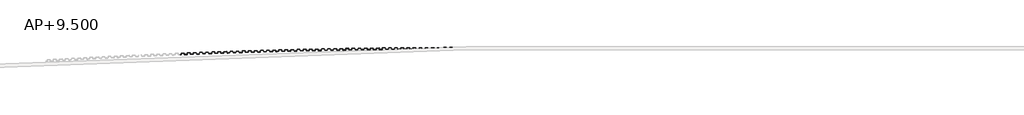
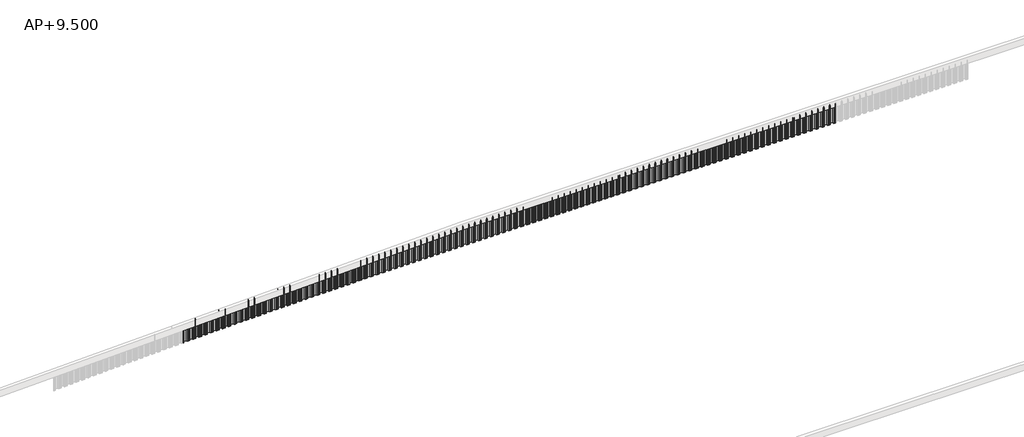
# One storey, part 2 of 3: 109 proxies.
"""IFC4 building model written with IfcOpenShell, lengths in millimetres."""

from ifc_helpers import new_model, si_unit, origin, place, context, project, spatial, transform, mapped, element, save
from components import generic_models_baafeade

model = new_model("IFC4")

# Units and contexts
model_context = context("Model", 3, world=origin())
ifc_project = project(units=[si_unit("LENGTHUNIT", "METRE", prefix="MILLI")], contexts=[model_context])

# Site, building, storey
site = spatial("IfcSite", under=ifc_project)
building = spatial("IfcBuilding", under=site)
storey = spatial("IfcBuildingStorey", under=building, Name="AP+9.500", Elevation=9500.0)

# Proxies
placement = place(None, origin())
generic_models_shape = generic_models_baafeade(model_context)
element("IfcBuildingElementProxy", 1, Name="鋼矢板10H型 : 鋼矢板10H型", ObjectType="鋼矢板10H型 : 鋼矢板10H型", at=placement, inside=storey, context=model_context, shape_type="MappedRepresentation", body=[
    mapped(generic_models_shape, transform((39732.0, 49750.0, 8850.0), x_axis=(1.0, 0.0, 0.0), y_axis=(0.0, 1.0, 0.0), z_axis=(0.0, 0.0, 1.0))),
])
element("IfcBuildingElementProxy", 2, Name="鋼矢板10H型 : 鋼矢板10H型", ObjectType="鋼矢板10H型 : 鋼矢板10H型", at=placement, inside=storey, context=model_context, shape_type="MappedRepresentation", body=[
    mapped(generic_models_shape, transform((38832.0, 49750.0, 8850.0), x_axis=(1.0, 0.0, 0.0), y_axis=(0.0, 1.0, 0.0), z_axis=(0.0, 0.0, 1.0))),
])
element("IfcBuildingElementProxy", 3, Name="鋼矢板10H型 : 鋼矢板10H型", ObjectType="鋼矢板10H型 : 鋼矢板10H型", at=placement, inside=storey, context=model_context, shape_type="MappedRepresentation", body=[
    mapped(generic_models_shape, transform((37932.0, 49750.0, 8850.0), x_axis=(1.0, 0.0, 0.0), y_axis=(0.0, 1.0, 0.0), z_axis=(0.0, 0.0, 1.0))),
])
element("IfcBuildingElementProxy", 4, Name="鋼矢板10H型 : 鋼矢板10H型", ObjectType="鋼矢板10H型 : 鋼矢板10H型", at=placement, inside=storey, context=model_context, shape_type="MappedRepresentation", body=[
    mapped(generic_models_shape, transform((37032.0, 49750.0, 8850.0), x_axis=(1.0, 0.0, 0.0), y_axis=(0.0, 1.0, 0.0), z_axis=(0.0, 0.0, 1.0))),
])
element("IfcBuildingElementProxy", 5, Name="鋼矢板10H型 : 鋼矢板10H型", ObjectType="鋼矢板10H型 : 鋼矢板10H型", at=placement, inside=storey, context=model_context, shape_type="MappedRepresentation", body=[
    mapped(generic_models_shape, transform((36132.0, 49750.0, 8850.0), x_axis=(1.0, 0.0, 0.0), y_axis=(0.0, 1.0, 0.0), z_axis=(0.0, 0.0, 1.0))),
])
element("IfcBuildingElementProxy", 6, Name="鋼矢板10H型 : 鋼矢板10H型", ObjectType="鋼矢板10H型 : 鋼矢板10H型", at=placement, inside=storey, context=model_context, shape_type="MappedRepresentation", body=[
    mapped(generic_models_shape, transform((35232.0, 49750.0, 8850.0), x_axis=(1.0, 0.0, 0.0), y_axis=(0.0, 1.0, 0.0), z_axis=(0.0, 0.0, 1.0))),
])
element("IfcBuildingElementProxy", 7, Name="鋼矢板10H型 : 鋼矢板10H型", ObjectType="鋼矢板10H型 : 鋼矢板10H型", at=placement, inside=storey, context=model_context, shape_type="MappedRepresentation", body=[
    mapped(generic_models_shape, transform((34332.0, 49750.0, 8850.0), x_axis=(1.0, 0.0, 0.0), y_axis=(0.0, 1.0, 0.0), z_axis=(0.0, 0.0, 1.0))),
])
element("IfcBuildingElementProxy", 8, Name="鋼矢板10H型 : 鋼矢板10H型", ObjectType="鋼矢板10H型 : 鋼矢板10H型", at=placement, inside=storey, context=model_context, shape_type="MappedRepresentation", body=[
    mapped(generic_models_shape, transform((33432.0, 49750.0, 8850.0), x_axis=(1.0, 0.0, 0.0), y_axis=(0.0, 1.0, 0.0), z_axis=(0.0, 0.0, 1.0))),
])
element("IfcBuildingElementProxy", 9, Name="鋼矢板10H型 : 鋼矢板10H型", ObjectType="鋼矢板10H型 : 鋼矢板10H型", at=placement, inside=storey, context=model_context, shape_type="MappedRepresentation", body=[
    mapped(generic_models_shape, transform((32532.0, 49750.0, 8850.0), x_axis=(1.0, 0.0, 0.0), y_axis=(0.0, 1.0, 0.0), z_axis=(0.0, 0.0, 1.0))),
])
element("IfcBuildingElementProxy", 10, Name="鋼矢板10H型 : 鋼矢板10H型", ObjectType="鋼矢板10H型 : 鋼矢板10H型", at=placement, inside=storey, context=model_context, shape_type="MappedRepresentation", body=[
    mapped(generic_models_shape, transform((31632.0, 49750.0, 8850.0), x_axis=(1.0, 0.0, 0.0), y_axis=(0.0, 1.0, 0.0), z_axis=(0.0, 0.0, 1.0))),
])
element("IfcBuildingElementProxy", 11, Name="鋼矢板10H型 : 鋼矢板10H型", ObjectType="鋼矢板10H型 : 鋼矢板10H型", at=placement, inside=storey, context=model_context, shape_type="MappedRepresentation", body=[
    mapped(generic_models_shape, transform((30732.0, 49750.0, 8850.0), x_axis=(1.0, 0.0, 0.0), y_axis=(0.0, 1.0, 0.0), z_axis=(0.0, 0.0, 1.0))),
])
element("IfcBuildingElementProxy", 12, Name="鋼矢板10H型 : 鋼矢板10H型", ObjectType="鋼矢板10H型 : 鋼矢板10H型", at=placement, inside=storey, context=model_context, shape_type="MappedRepresentation", body=[
    mapped(generic_models_shape, transform((29832.0, 49750.0, 8850.0), x_axis=(1.0, 0.0, 0.0), y_axis=(0.0, 1.0, 0.0), z_axis=(0.0, 0.0, 1.0))),
])
element("IfcBuildingElementProxy", 13, Name="鋼矢板10H型 : 鋼矢板10H型", ObjectType="鋼矢板10H型 : 鋼矢板10H型", at=placement, inside=storey, context=model_context, shape_type="MappedRepresentation", body=[
    mapped(generic_models_shape, transform((28932.0, 49750.0, 8850.0), x_axis=(1.0, 0.0, 0.0), y_axis=(0.0, 1.0, 0.0), z_axis=(0.0, 0.0, 1.0))),
])
element("IfcBuildingElementProxy", 14, Name="鋼矢板10H型 : 鋼矢板10H型", ObjectType="鋼矢板10H型 : 鋼矢板10H型", at=placement, inside=storey, context=model_context, shape_type="MappedRepresentation", body=[
    mapped(generic_models_shape, transform((28032.0, 49750.0, 8850.0), x_axis=(1.0, 0.0, 0.0), y_axis=(0.0, 1.0, 0.0), z_axis=(0.0, 0.0, 1.0))),
])
element("IfcBuildingElementProxy", 15, Name="鋼矢板10H型 : 鋼矢板10H型", ObjectType="鋼矢板10H型 : 鋼矢板10H型", at=placement, inside=storey, context=model_context, shape_type="MappedRepresentation", body=[
    mapped(generic_models_shape, transform((27132.0, 49750.0, 8850.0), x_axis=(1.0, 0.0, 0.0), y_axis=(0.0, 1.0, 0.0), z_axis=(0.0, 0.0, 1.0))),
])
element("IfcBuildingElementProxy", 16, Name="鋼矢板10H型 : 鋼矢板10H型", ObjectType="鋼矢板10H型 : 鋼矢板10H型", at=placement, inside=storey, context=model_context, shape_type="MappedRepresentation", body=[
    mapped(generic_models_shape, transform((26232.0, 49750.0, 8850.0), x_axis=(1.0, 0.0, 0.0), y_axis=(0.0, 1.0, 0.0), z_axis=(0.0, 0.0, 1.0))),
])
element("IfcBuildingElementProxy", 17, Name="鋼矢板10H型 : 鋼矢板10H型", ObjectType="鋼矢板10H型 : 鋼矢板10H型", at=placement, inside=storey, context=model_context, shape_type="MappedRepresentation", body=[
    mapped(generic_models_shape, transform((25332.0, 49750.0, 8850.0), x_axis=(1.0, 0.0, 0.0), y_axis=(0.0, 1.0, 0.0), z_axis=(0.0, 0.0, 1.0))),
])
element("IfcBuildingElementProxy", 18, Name="鋼矢板10H型 : 鋼矢板10H型", ObjectType="鋼矢板10H型 : 鋼矢板10H型", at=placement, inside=storey, context=model_context, shape_type="MappedRepresentation", body=[
    mapped(generic_models_shape, transform((24432.0, 49750.0, 8850.0), x_axis=(1.0, 0.0, 0.0), y_axis=(0.0, 1.0, 0.0), z_axis=(0.0, 0.0, 1.0))),
])
element("IfcBuildingElementProxy", 19, Name="鋼矢板10H型 : 鋼矢板10H型", ObjectType="鋼矢板10H型 : 鋼矢板10H型", at=placement, inside=storey, context=model_context, shape_type="MappedRepresentation", body=[
    mapped(generic_models_shape, transform((23532.0, 49750.0, 8850.0), x_axis=(1.0, 0.0, 0.0), y_axis=(0.0, 1.0, 0.0), z_axis=(0.0, 0.0, 1.0))),
])
element("IfcBuildingElementProxy", 20, Name="鋼矢板10H型 : 鋼矢板10H型", ObjectType="鋼矢板10H型 : 鋼矢板10H型", at=placement, inside=storey, context=model_context, shape_type="MappedRepresentation", body=[
    mapped(generic_models_shape, transform((22632.0, 49750.0, 8850.0), x_axis=(1.0, 0.0, 0.0), y_axis=(0.0, 1.0, 0.0), z_axis=(0.0, 0.0, 1.0))),
])
element("IfcBuildingElementProxy", 21, Name="鋼矢板10H型 : 鋼矢板10H型", ObjectType="鋼矢板10H型 : 鋼矢板10H型", at=placement, inside=storey, context=model_context, shape_type="MappedRepresentation", body=[
    mapped(generic_models_shape, transform((21732.0, 49750.0, 8850.0), x_axis=(1.0, 0.0, 0.0), y_axis=(0.0, 1.0, 0.0), z_axis=(0.0, 0.0, 1.0))),
])
element("IfcBuildingElementProxy", 22, Name="鋼矢板10H型 : 鋼矢板10H型", ObjectType="鋼矢板10H型 : 鋼矢板10H型", at=placement, inside=storey, context=model_context, shape_type="MappedRepresentation", body=[
    mapped(generic_models_shape, transform((20832.0, 49750.0, 8850.0), x_axis=(1.0, 0.0, 0.0), y_axis=(0.0, 1.0, 0.0), z_axis=(0.0, 0.0, 1.0))),
])
element("IfcBuildingElementProxy", 23, Name="鋼矢板10H型 : 鋼矢板10H型", ObjectType="鋼矢板10H型 : 鋼矢板10H型", at=placement, inside=storey, context=model_context, shape_type="MappedRepresentation", body=[
    mapped(generic_models_shape, transform((19932.0, 49750.0, 8850.0), x_axis=(1.0, 0.0, 0.0), y_axis=(0.0, 1.0, 0.0), z_axis=(0.0, 0.0, 1.0))),
])
element("IfcBuildingElementProxy", 24, Name="鋼矢板10H型 : 鋼矢板10H型", ObjectType="鋼矢板10H型 : 鋼矢板10H型", at=placement, inside=storey, context=model_context, shape_type="MappedRepresentation", body=[
    mapped(generic_models_shape, transform((19032.0, 49750.0, 8850.0), x_axis=(1.0, 0.0, 0.0), y_axis=(0.0, 1.0, 0.0), z_axis=(0.0, 0.0, 1.0))),
])
element("IfcBuildingElementProxy", 25, Name="鋼矢板10H型 : 鋼矢板10H型", ObjectType="鋼矢板10H型 : 鋼矢板10H型", at=placement, inside=storey, context=model_context, shape_type="MappedRepresentation", body=[
    mapped(generic_models_shape, transform((18132.0, 49750.0, 8850.0), x_axis=(1.0, 0.0, 0.0), y_axis=(0.0, 1.0, 0.0), z_axis=(0.0, 0.0, 1.0))),
])
element("IfcBuildingElementProxy", 26, Name="鋼矢板10H型 : 鋼矢板10H型", ObjectType="鋼矢板10H型 : 鋼矢板10H型", at=placement, inside=storey, context=model_context, shape_type="MappedRepresentation", body=[
    mapped(generic_models_shape, transform((17232.0, 49750.0, 8850.0), x_axis=(1.0, 0.0, 0.0), y_axis=(0.0, 1.0, 0.0), z_axis=(0.0, 0.0, 1.0))),
])
element("IfcBuildingElementProxy", 27, Name="鋼矢板10H型 : 鋼矢板10H型", ObjectType="鋼矢板10H型 : 鋼矢板10H型", at=placement, inside=storey, context=model_context, shape_type="MappedRepresentation", body=[
    mapped(generic_models_shape, transform((16332.0, 49750.0, 8850.0), x_axis=(1.0, 0.0, 0.0), y_axis=(0.0, 1.0, 0.0), z_axis=(0.0, 0.0, 1.0))),
])
element("IfcBuildingElementProxy", 28, Name="鋼矢板10H型 : 鋼矢板10H型", ObjectType="鋼矢板10H型 : 鋼矢板10H型", at=placement, inside=storey, context=model_context, shape_type="MappedRepresentation", body=[
    mapped(generic_models_shape, transform((15432.0, 49750.0, 8850.0), x_axis=(1.0, 0.0, 0.0), y_axis=(0.0, 1.0, 0.0), z_axis=(0.0, 0.0, 1.0))),
])
element("IfcBuildingElementProxy", 29, Name="鋼矢板10H型 : 鋼矢板10H型", ObjectType="鋼矢板10H型 : 鋼矢板10H型", at=placement, inside=storey, context=model_context, shape_type="MappedRepresentation", body=[
    mapped(generic_models_shape, transform((14532.0, 49750.0, 8850.0), x_axis=(1.0, 0.0, 0.0), y_axis=(0.0, 1.0, 0.0), z_axis=(0.0, 0.0, 1.0))),
])
element("IfcBuildingElementProxy", 30, Name="鋼矢板10H型 : 鋼矢板10H型", ObjectType="鋼矢板10H型 : 鋼矢板10H型", at=placement, inside=storey, context=model_context, shape_type="MappedRepresentation", body=[
    mapped(generic_models_shape, transform((13632.0, 49750.0, 8850.0), x_axis=(1.0, 0.0, 0.0), y_axis=(0.0, 1.0, 0.0), z_axis=(0.0, 0.0, 1.0))),
])
element("IfcBuildingElementProxy", 31, Name="鋼矢板10H型 : 鋼矢板10H型", ObjectType="鋼矢板10H型 : 鋼矢板10H型", at=placement, inside=storey, context=model_context, shape_type="MappedRepresentation", body=[
    mapped(generic_models_shape, transform((12732.0, 49750.0, 8850.0), x_axis=(1.0, 0.0, 0.0), y_axis=(0.0, 1.0, 0.0), z_axis=(0.0, 0.0, 1.0))),
])
element("IfcBuildingElementProxy", 32, Name="鋼矢板10H型 : 鋼矢板10H型", ObjectType="鋼矢板10H型 : 鋼矢板10H型", at=placement, inside=storey, context=model_context, shape_type="MappedRepresentation", body=[
    mapped(generic_models_shape, transform((11832.0, 49750.0, 8850.0), x_axis=(1.0, 0.0, 0.0), y_axis=(0.0, 1.0, 0.0), z_axis=(0.0, 0.0, 1.0))),
])
element("IfcBuildingElementProxy", 33, Name="鋼矢板10H型 : 鋼矢板10H型", ObjectType="鋼矢板10H型 : 鋼矢板10H型", at=placement, inside=storey, context=model_context, shape_type="MappedRepresentation", body=[
    mapped(generic_models_shape, transform((10932.0, 49750.0, 8850.0), x_axis=(1.0, 0.0, 0.0), y_axis=(0.0, 1.0, 0.0), z_axis=(0.0, 0.0, 1.0))),
])
element("IfcBuildingElementProxy", 34, Name="鋼矢板10H型 : 鋼矢板10H型", ObjectType="鋼矢板10H型 : 鋼矢板10H型", at=placement, inside=storey, context=model_context, shape_type="MappedRepresentation", body=[
    mapped(generic_models_shape, transform((10032.0, 49750.0, 8850.0), x_axis=(1.0, 0.0, 0.0), y_axis=(0.0, 1.0, 0.0), z_axis=(0.0, 0.0, 1.0))),
])
element("IfcBuildingElementProxy", 35, Name="鋼矢板10H型 : 鋼矢板10H型", ObjectType="鋼矢板10H型 : 鋼矢板10H型", at=placement, inside=storey, context=model_context, shape_type="MappedRepresentation", body=[
    mapped(generic_models_shape, transform((9132.0, 49750.0, 8850.0), x_axis=(1.0, 0.0, 0.0), y_axis=(0.0, 1.0, 0.0), z_axis=(0.0, 0.0, 1.0))),
])
element("IfcBuildingElementProxy", 36, Name="鋼矢板10H型 : 鋼矢板10H型", ObjectType="鋼矢板10H型 : 鋼矢板10H型", at=placement, inside=storey, context=model_context, shape_type="MappedRepresentation", body=[
    mapped(generic_models_shape, transform((8232.0, 49750.0, 8850.0), x_axis=(1.0, 0.0, 0.0), y_axis=(0.0, 1.0, 0.0), z_axis=(0.0, 0.0, 1.0))),
])
element("IfcBuildingElementProxy", 37, Name="鋼矢板10H型 : 鋼矢板10H型", ObjectType="鋼矢板10H型 : 鋼矢板10H型", at=placement, inside=storey, context=model_context, shape_type="MappedRepresentation", body=[
    mapped(generic_models_shape, transform((7332.0, 49750.0, 8850.0), x_axis=(1.0, 0.0, 0.0), y_axis=(0.0, 1.0, 0.0), z_axis=(0.0, 0.0, 1.0))),
])
element("IfcBuildingElementProxy", 38, Name="鋼矢板10H型 : 鋼矢板10H型", ObjectType="鋼矢板10H型 : 鋼矢板10H型", at=placement, inside=storey, context=model_context, shape_type="MappedRepresentation", body=[
    mapped(generic_models_shape, transform((6432.0, 49750.0, 8850.0), x_axis=(1.0, 0.0, 0.0), y_axis=(0.0, 1.0, 0.0), z_axis=(0.0, 0.0, 1.0))),
])
element("IfcBuildingElementProxy", 39, Name="鋼矢板10H型 : 鋼矢板10H型", ObjectType="鋼矢板10H型 : 鋼矢板10H型", at=placement, inside=storey, context=model_context, shape_type="MappedRepresentation", body=[
    mapped(generic_models_shape, transform((5532.0, 49750.0, 8850.0), x_axis=(1.0, 0.0, 0.0), y_axis=(0.0, 1.0, 0.0), z_axis=(0.0, 0.0, 1.0))),
])
element("IfcBuildingElementProxy", 40, Name="鋼矢板10H型 : 鋼矢板10H型", ObjectType="鋼矢板10H型 : 鋼矢板10H型", at=placement, inside=storey, context=model_context, shape_type="MappedRepresentation", body=[
    mapped(generic_models_shape, transform((4632.0, 49750.0, 8850.0), x_axis=(1.0, 0.0, 0.0), y_axis=(0.0, 1.0, 0.0), z_axis=(0.0, 0.0, 1.0))),
])
element("IfcBuildingElementProxy", 41, Name="鋼矢板10H型 : 鋼矢板10H型", ObjectType="鋼矢板10H型 : 鋼矢板10H型", at=placement, inside=storey, context=model_context, shape_type="MappedRepresentation", body=[
    mapped(generic_models_shape, transform((3732.0, 49750.0, 8850.0), x_axis=(1.0, 0.0, 0.0), y_axis=(0.0, 1.0, 0.0), z_axis=(0.0, 0.0, 1.0))),
])
element("IfcBuildingElementProxy", 42, Name="鋼矢板10H型 : 鋼矢板10H型", ObjectType="鋼矢板10H型 : 鋼矢板10H型", at=placement, inside=storey, context=model_context, shape_type="MappedRepresentation", body=[
    mapped(generic_models_shape, transform((2832.0, 49750.0, 8850.0), x_axis=(1.0, 0.0, 0.0), y_axis=(0.0, 1.0, 0.0), z_axis=(0.0, 0.0, 1.0))),
])
element("IfcBuildingElementProxy", 43, Name="鋼矢板10H型 : 鋼矢板10H型", ObjectType="鋼矢板10H型 : 鋼矢板10H型", at=placement, inside=storey, context=model_context, shape_type="MappedRepresentation", body=[
    mapped(generic_models_shape, transform((1932.0, 49750.0, 8850.0), x_axis=(1.0, 0.0, 0.0), y_axis=(0.0, 1.0, 0.0), z_axis=(0.0, 0.0, 1.0))),
])
element("IfcBuildingElementProxy", 44, Name="鋼矢板10H型 : 鋼矢板10H型", ObjectType="鋼矢板10H型 : 鋼矢板10H型", at=placement, inside=storey, context=model_context, shape_type="MappedRepresentation", body=[
    mapped(generic_models_shape, transform((1032.0, 49750.0, 8850.0), x_axis=(1.0, 0.0, 0.0), y_axis=(0.0, 1.0, 0.0), z_axis=(0.0, 0.0, 1.0))),
])
element("IfcBuildingElementProxy", 45, Name="鋼矢板10H型 : 鋼矢板10H型", ObjectType="鋼矢板10H型 : 鋼矢板10H型", at=placement, inside=storey, context=model_context, shape_type="MappedRepresentation", body=[
    mapped(generic_models_shape, transform((132.0, 49750.0, 8850.0), x_axis=(1.0, 0.0, 0.0), y_axis=(0.0, 1.0, 0.0), z_axis=(0.0, 0.0, 1.0))),
])
element("IfcBuildingElementProxy", 46, Name="鋼矢板10H型 : 鋼矢板10H型", ObjectType="鋼矢板10H型 : 鋼矢板10H型", at=placement, inside=storey, context=model_context, shape_type="MappedRepresentation", body=[
    mapped(generic_models_shape, transform((-768.0, 49750.0, 8850.0), x_axis=(1.0, 0.0, 0.0), y_axis=(0.0, 1.0, 0.0), z_axis=(0.0, 0.0, 1.0))),
])
element("IfcBuildingElementProxy", 47, Name="鋼矢板10H型 : 鋼矢板10H型", ObjectType="鋼矢板10H型 : 鋼矢板10H型", at=placement, inside=storey, context=model_context, shape_type="MappedRepresentation", body=[
    mapped(generic_models_shape, transform((-1668.0, 49750.0, 8850.0), x_axis=(1.0, 0.0, 0.0), y_axis=(0.0, 1.0, 0.0), z_axis=(0.0, 0.0, 1.0))),
])
element("IfcBuildingElementProxy", 48, Name="鋼矢板10H型 : 鋼矢板10H型", ObjectType="鋼矢板10H型 : 鋼矢板10H型", at=placement, inside=storey, context=model_context, shape_type="MappedRepresentation", body=[
    mapped(generic_models_shape, transform((-2568.0, 49750.0, 8850.0), x_axis=(1.0, 0.0, 0.0), y_axis=(0.0, 1.0, 0.0), z_axis=(0.0, 0.0, 1.0))),
])
element("IfcBuildingElementProxy", 49, Name="鋼矢板10H型 : 鋼矢板10H型", ObjectType="鋼矢板10H型 : 鋼矢板10H型", at=placement, inside=storey, context=model_context, shape_type="MappedRepresentation", body=[
    mapped(generic_models_shape, transform((-3468.0, 49750.0, 8850.0), x_axis=(1.0, 0.0, 0.0), y_axis=(0.0, 1.0, 0.0), z_axis=(0.0, 0.0, 1.0))),
])
element("IfcBuildingElementProxy", 50, Name="鋼矢板10H型 : 鋼矢板10H型", ObjectType="鋼矢板10H型 : 鋼矢板10H型", at=placement, inside=storey, context=model_context, shape_type="MappedRepresentation", body=[
    mapped(generic_models_shape, transform((-4368.0, 49750.0, 8850.0), x_axis=(1.0, 0.0, 0.0), y_axis=(0.0, 1.0, 0.0), z_axis=(0.0, 0.0, 1.0))),
])
element("IfcBuildingElementProxy", 51, Name="鋼矢板10H型 : 鋼矢板10H型", ObjectType="鋼矢板10H型 : 鋼矢板10H型", at=placement, inside=storey, context=model_context, shape_type="MappedRepresentation", body=[
    mapped(generic_models_shape, transform((-5268.0, 49750.0, 8850.0), x_axis=(1.0, 0.0, 0.0), y_axis=(0.0, 1.0, 0.0), z_axis=(0.0, 0.0, 1.0))),
])
element("IfcBuildingElementProxy", 52, Name="鋼矢板10H型 : 鋼矢板10H型", ObjectType="鋼矢板10H型 : 鋼矢板10H型", at=placement, inside=storey, context=model_context, shape_type="MappedRepresentation", body=[
    mapped(generic_models_shape, transform((-6168.0, 49750.0, 8850.0), x_axis=(1.0, 0.0, 0.0), y_axis=(0.0, 1.0, 0.0), z_axis=(0.0, 0.0, 1.0))),
])
element("IfcBuildingElementProxy", 53, Name="鋼矢板10H型 : 鋼矢板10H型", ObjectType="鋼矢板10H型 : 鋼矢板10H型", at=placement, inside=storey, context=model_context, shape_type="MappedRepresentation", body=[
    mapped(generic_models_shape, transform((-7068.0, 49750.0, 8850.0), x_axis=(1.0, 0.0, 0.0), y_axis=(0.0, 1.0, 0.0), z_axis=(0.0, 0.0, 1.0))),
])
element("IfcBuildingElementProxy", 54, Name="鋼矢板10H型 : 鋼矢板10H型", ObjectType="鋼矢板10H型 : 鋼矢板10H型", at=placement, inside=storey, context=model_context, shape_type="MappedRepresentation", body=[
    mapped(generic_models_shape, transform((-7968.0, 49750.0, 8850.0), x_axis=(1.0, 0.0, 0.0), y_axis=(0.0, 1.0, 0.0), z_axis=(0.0, 0.0, 1.0))),
])
element("IfcBuildingElementProxy", 55, Name="鋼矢板10H型 : 鋼矢板10H型", ObjectType="鋼矢板10H型 : 鋼矢板10H型", at=placement, inside=storey, context=model_context, shape_type="MappedRepresentation", body=[
    mapped(generic_models_shape, transform((-8868.0, 49750.0, 8850.0), x_axis=(1.0, 0.0, 0.0), y_axis=(0.0, 1.0, 0.0), z_axis=(0.0, 0.0, 1.0))),
])
element("IfcBuildingElementProxy", 56, Name="鋼矢板10H型 : 鋼矢板10H型", ObjectType="鋼矢板10H型 : 鋼矢板10H型", at=placement, inside=storey, context=model_context, shape_type="MappedRepresentation", body=[
    mapped(generic_models_shape, transform((-9768.0, 49750.0, 8850.0), x_axis=(1.0, 0.0, 0.0), y_axis=(0.0, 1.0, 0.0), z_axis=(0.0, 0.0, 1.0))),
])
element("IfcBuildingElementProxy", 57, Name="鋼矢板10H型 : 鋼矢板10H型", ObjectType="鋼矢板10H型 : 鋼矢板10H型", at=placement, inside=storey, context=model_context, shape_type="MappedRepresentation", body=[
    mapped(generic_models_shape, transform((-10668.0, 49750.0, 8850.0), x_axis=(1.0, 0.0, 0.0), y_axis=(0.0, 1.0, 0.0), z_axis=(0.0, 0.0, 1.0))),
])
element("IfcBuildingElementProxy", 58, Name="鋼矢板10H型 : 鋼矢板10H型", ObjectType="鋼矢板10H型 : 鋼矢板10H型", at=placement, inside=storey, context=model_context, shape_type="MappedRepresentation", body=[
    mapped(generic_models_shape, transform((-11568.0, 49750.0, 8850.0), x_axis=(1.0, 0.0, 0.0), y_axis=(0.0, 1.0, 0.0), z_axis=(0.0, 0.0, 1.0))),
])
element("IfcBuildingElementProxy", 59, Name="鋼矢板10H型 : 鋼矢板10H型", ObjectType="鋼矢板10H型 : 鋼矢板10H型", at=placement, inside=storey, context=model_context, shape_type="MappedRepresentation", body=[
    mapped(generic_models_shape, transform((-12468.0, 49750.0, 8850.0), x_axis=(1.0, 0.0, 0.0), y_axis=(0.0, 1.0, 0.0), z_axis=(0.0, 0.0, 1.0))),
])
element("IfcBuildingElementProxy", 60, Name="鋼矢板10H型 : 鋼矢板10H型", ObjectType="鋼矢板10H型 : 鋼矢板10H型", at=placement, inside=storey, context=model_context, shape_type="MappedRepresentation", body=[
    mapped(generic_models_shape, transform((-13368.0, 49750.0, 8850.0), x_axis=(1.0, 0.0, 0.0), y_axis=(0.0, 1.0, 0.0), z_axis=(0.0, 0.0, 1.0))),
])
element("IfcBuildingElementProxy", 61, Name="鋼矢板10H型 : 鋼矢板10H型", ObjectType="鋼矢板10H型 : 鋼矢板10H型", at=placement, inside=storey, context=model_context, shape_type="MappedRepresentation", body=[
    mapped(generic_models_shape, transform((-14268.0, 49750.0, 8850.0), x_axis=(1.0, 0.0, 0.0), y_axis=(0.0, 1.0, 0.0), z_axis=(0.0, 0.0, 1.0))),
])
element("IfcBuildingElementProxy", 62, Name="鋼矢板10H型 : 鋼矢板10H型", ObjectType="鋼矢板10H型 : 鋼矢板10H型", at=placement, inside=storey, context=model_context, shape_type="MappedRepresentation", body=[
    mapped(generic_models_shape, transform((-15168.0, 49750.0, 8850.0), x_axis=(1.0, 0.0, 0.0), y_axis=(0.0, 1.0, 0.0), z_axis=(0.0, 0.0, 1.0))),
])
element("IfcBuildingElementProxy", 63, Name="鋼矢板10H型 : 鋼矢板10H型", ObjectType="鋼矢板10H型 : 鋼矢板10H型", at=placement, inside=storey, context=model_context, shape_type="MappedRepresentation", body=[
    mapped(generic_models_shape, transform((-16068.0047517, 49750.0214337, 8850.0), x_axis=(1.0, 0.0, 0.0), y_axis=(0.0, 1.0, 0.0), z_axis=(0.0, 0.0, 1.0))),
])
element("IfcBuildingElementProxy", 64, Name="鋼矢板10H型 : 鋼矢板10H型", ObjectType="鋼矢板10H型 : 鋼矢板10H型", at=placement, inside=storey, context=model_context, shape_type="MappedRepresentation", body=[
    mapped(generic_models_shape, transform((-57451.6580516, 48915.814822, 8850.0), x_axis=(0.9992054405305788, 0.03985583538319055, 0.0), y_axis=(-0.03985583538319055, 0.9992054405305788, 0.0), z_axis=(0.0, 0.0, 1.0))),
])
element("IfcBuildingElementProxy", 65, Name="鋼矢板10H型 : 鋼矢板10H型", ObjectType="鋼矢板10H型 : 鋼矢板10H型", at=placement, inside=storey, context=model_context, shape_type="MappedRepresentation", body=[
    mapped(generic_models_shape, transform((-56552.3661889, 48951.2992459, 8850.0), x_axis=(0.9992392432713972, 0.038999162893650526, 0.0), y_axis=(-0.038999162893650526, 0.9992392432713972, 0.0), z_axis=(0.0, 0.0, 1.0))),
])
element("IfcBuildingElementProxy", 66, Name="鋼矢板10H型 : 鋼矢板10H型", ObjectType="鋼矢板10H型 : 鋼矢板10H型", at=placement, inside=storey, context=model_context, shape_type="MappedRepresentation", body=[
    mapped(generic_models_shape, transform((-55653.0388164, 48986.0128656, 8850.0), x_axis=(0.9992723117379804, 0.03814245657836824, 0.0), y_axis=(-0.03814245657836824, 0.9992723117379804, 0.0), z_axis=(0.0, 0.0, 1.0))),
])
element("IfcBuildingElementProxy", 67, Name="鋼矢板10H型 : 鋼矢板10H型", ObjectType="鋼矢板10H型 : 鋼矢板10H型", at=placement, inside=storey, context=model_context, shape_type="MappedRepresentation", body=[
    mapped(generic_models_shape, transform((-54753.6874311, 49019.9552372, 8850.0), x_axis=(0.999304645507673, 0.03728572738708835, 0.0), y_axis=(-0.03728572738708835, 0.999304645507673, 0.0), z_axis=(0.0, 0.0, 1.0))),
])
element("IfcBuildingElementProxy", 68, Name="鋼矢板10H型 : 鋼矢板10H型", ObjectType="鋼矢板10H型 : 鋼矢板10H型", at=placement, inside=storey, context=model_context, shape_type="MappedRepresentation", body=[
    mapped(generic_models_shape, transform((-53854.3018579, 49053.1267447, 8850.0), x_axis=(0.9993362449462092, 0.03642896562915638, 0.0), y_axis=(-0.03642896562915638, 0.9993362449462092, 0.0), z_axis=(0.0, 0.0, 1.0))),
])
element("IfcBuildingElementProxy", 69, Name="鋼矢板10H型 : 鋼矢板10H型", ObjectType="鋼矢板10H型 : 鋼矢板10H型", at=placement, inside=storey, context=model_context, shape_type="MappedRepresentation", body=[
    mapped(generic_models_shape, transform((-52954.8935944, 49085.5269642, 8850.0), x_axis=(0.9993671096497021, 0.035572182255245, 0.0), y_axis=(-0.035572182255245, 0.9993671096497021, 0.0), z_axis=(0.0, 0.0, 1.0))),
])
element("IfcBuildingElementProxy", 70, Name="鋼矢板10H型 : 鋼矢板10H型", ObjectType="鋼矢板10H型 : 鋼矢板10H型", at=placement, inside=storey, context=model_context, shape_type="MappedRepresentation", body=[
    mapped(generic_models_shape, transform((-52055.4524647, 49117.1562622, 8850.0), x_axis=(0.9993972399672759, 0.03471536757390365, 0.0), y_axis=(-0.03471536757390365, 0.9993972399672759, 0.0), z_axis=(0.0, 0.0, 1.0))),
])
element("IfcBuildingElementProxy", 71, Name="鋼矢板10H型 : 鋼矢板10H型", ObjectType="鋼矢板10H型 : 鋼矢板10H型", at=placement, inside=storey, context=model_context, shape_type="MappedRepresentation", body=[
    mapped(generic_models_shape, transform((-51155.9899672, 49148.0142344, 8850.0), x_axis=(0.9994266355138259, 0.033858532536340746, 0.0), y_axis=(-0.033858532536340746, 0.9994266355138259, 0.0), z_axis=(0.0, 0.0, 1.0))),
])
element("IfcBuildingElementProxy", 72, Name="鋼矢板10H型 : 鋼矢板10H型", ObjectType="鋼矢板10H型 : 鋼矢板10H型", at=placement, inside=storey, context=model_context, shape_type="MappedRepresentation", body=[
    mapped(generic_models_shape, transform((-50256.4959256, 49178.1012298, 8850.0), x_axis=(0.9994552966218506, 0.033001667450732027, 0.0), y_axis=(-0.033001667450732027, 0.9994552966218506, 0.0), z_axis=(0.0, 0.0, 1.0))),
])
element("IfcBuildingElementProxy", 73, Name="鋼矢板10H型 : 鋼矢板10H型", ObjectType="鋼矢板10H型 : 鋼矢板10H型", at=placement, inside=storey, context=model_context, shape_type="MappedRepresentation", body=[
    mapped(generic_models_shape, transform((-49356.9818388, 49207.4168638, 8850.0), x_axis=(0.9994832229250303, 0.03214478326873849, 0.0), y_axis=(-0.03214478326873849, 0.9994832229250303, 0.0), z_axis=(0.0, 0.0, 1.0))),
])
element("IfcBuildingElementProxy", 74, Name="鋼矢板10H型 : 鋼矢板10H型", ObjectType="鋼矢板10H型 : 鋼矢板10H型", at=placement, inside=storey, context=model_context, shape_type="MappedRepresentation", body=[
    mapped(generic_models_shape, transform((-48457.4375298, 49235.9614682, 8850.0), x_axis=(0.9995104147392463, 0.03128787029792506, 0.0), y_axis=(-0.03128787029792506, 0.9995104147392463, 0.0), z_axis=(0.0, 0.0, 1.0))),
])
element("IfcBuildingElementProxy", 75, Name="鋼矢板10H型 : 鋼矢板10H型", ObjectType="鋼矢板10H型 : 鋼矢板10H型", at=placement, inside=storey, context=model_context, shape_type="MappedRepresentation", body=[
    mapped(generic_models_shape, transform((-47557.8744983, 49263.7346779, 8850.0), x_axis=(0.999536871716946, 0.03043093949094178, 0.0), y_axis=(-0.03043093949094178, 0.999536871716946, 0.0), z_axis=(0.0, 0.0, 1.0))),
])
element("IfcBuildingElementProxy", 76, Name="鋼矢板10H型 : 鋼矢板10H型", ObjectType="鋼矢板10H型 : 鋼矢板10H型", at=placement, inside=storey, context=model_context, shape_type="MappedRepresentation", body=[
    mapped(generic_models_shape, transform((-46658.2825668, 49290.7368073, 8850.0), x_axis=(0.9995625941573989, 0.02957398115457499, 0.0), y_axis=(-0.02957398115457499, 0.9995625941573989, 0.0), z_axis=(0.0, 0.0, 1.0))),
])
element("IfcBuildingElementProxy", 77, Name="鋼矢板10H型 : 鋼矢板10H型", ObjectType="鋼矢板10H型 : 鋼矢板10H型", at=placement, inside=storey, context=model_context, shape_type="MappedRepresentation", body=[
    mapped(generic_models_shape, transform((-45758.6732355, 49316.9675112, 8850.0), x_axis=(0.9995875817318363, 0.028717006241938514, 0.0), y_axis=(-0.028717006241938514, 0.9995875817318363, 0.0), z_axis=(0.0, 0.0, 1.0))),
])
element("IfcBuildingElementProxy", 78, Name="鋼矢板10H型 : 鋼矢板10H型", ObjectType="鋼矢板10H型 : 鋼矢板10H型", at=placement, inside=storey, context=model_context, shape_type="MappedRepresentation", body=[
    mapped(generic_models_shape, transform((-44859.0363264, 49342.4270862, 8850.0), x_axis=(0.9996118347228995, 0.027860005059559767, 0.0), y_axis=(-0.027860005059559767, 0.9996118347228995, 0.0), z_axis=(0.0, 0.0, 1.0))),
])
element("IfcBuildingElementProxy", 79, Name="鋼矢板10H型 : 鋼矢板10H型", ObjectType="鋼矢板10H型 : 鋼矢板10H型", at=placement, inside=storey, context=model_context, shape_type="MappedRepresentation", body=[
    mapped(generic_models_shape, transform((-43959.3833402, 49367.115207, 8850.0), x_axis=(0.9996353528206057, 0.027002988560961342, 0.0), y_axis=(-0.027002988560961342, 0.9996353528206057, 0.0), z_axis=(0.0, 0.0, 1.0))),
])
element("IfcBuildingElementProxy", 80, Name="鋼矢板10H型 : 鋼矢板10H型", ObjectType="鋼矢板10H型 : 鋼矢板10H型", at=placement, inside=storey, context=model_context, shape_type="MappedRepresentation", body=[
    mapped(generic_models_shape, transform((-43059.7040986, 49391.0321529, 8850.0), x_axis=(0.999658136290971, 0.026145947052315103, 0.0), y_axis=(-0.026145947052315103, 0.999658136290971, 0.0), z_axis=(0.0, 0.0, 1.0))),
])
element("IfcBuildingElementProxy", 81, Name="鋼矢板10H型 : 鋼矢板10H型", ObjectType="鋼矢板10H型 : 鋼矢板10H型", at=placement, inside=storey, context=model_context, shape_type="MappedRepresentation", body=[
    mapped(generic_models_shape, transform((-42160.0101027, 49414.177618, 8850.0), x_axis=(0.9996801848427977, 0.02528889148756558, 0.0), y_axis=(-0.02528889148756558, 0.9996801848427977, 0.0), z_axis=(0.0, 0.0, 1.0))),
])
element("IfcBuildingElementProxy", 82, Name="鋼矢板10H型 : 鋼矢板10H型", ObjectType="鋼矢板10H型 : 鋼矢板10H型", at=placement, inside=storey, context=model_context, shape_type="MappedRepresentation", body=[
    mapped(generic_models_shape, transform((-41260.2911736, 49436.5518643, 8850.0), x_axis=(0.9997014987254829, 0.024431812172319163, 0.0), y_axis=(-0.024431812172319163, 0.9997014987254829, 0.0), z_axis=(0.0, 0.0, 1.0))),
])
element("IfcBuildingElementProxy", 83, Name="鋼矢板10H型 : 鋼矢板10H型", ObjectType="鋼矢板10H型 : 鋼矢板10H型", at=placement, inside=storey, context=model_context, shape_type="MappedRepresentation", body=[
    mapped(generic_models_shape, transform((-40360.5588132, 49458.1546057, 8850.0), x_axis=(0.9997220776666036, 0.023574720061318, 0.0), y_axis=(-0.023574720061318, 0.9997220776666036, 0.0), z_axis=(0.0, 0.0, 1.0))),
])
element("IfcBuildingElementProxy", 84, Name="鋼矢板10H型 : 鋼矢板10H型", ObjectType="鋼矢板10H型 : 鋼矢板10H型", at=placement, inside=storey, context=model_context, shape_type="MappedRepresentation", body=[
    mapped(generic_models_shape, transform((-39460.802842, 49478.9860867, 8850.0), x_axis=(0.9997419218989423, 0.022717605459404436, 0.0), y_axis=(-0.022717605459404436, 0.9997419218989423, 0.0), z_axis=(0.0, 0.0, 1.0))),
])
element("IfcBuildingElementProxy", 85, Name="鋼矢板10H型 : 鋼矢板10H型", ObjectType="鋼矢板10H型 : 鋼矢板10H型", at=placement, inside=storey, context=model_context, shape_type="MappedRepresentation", body=[
    mapped(generic_models_shape, transform((-38561.0347625, 49499.046041, 8850.0), x_axis=(0.999761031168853, 0.021860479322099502, 0.0), y_axis=(-0.021860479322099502, 0.999761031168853, 0.0), z_axis=(0.0, 0.0, 1.0))),
])
element("IfcBuildingElementProxy", 86, Name="鋼矢板10H型 : 鋼矢板10H型", ObjectType="鋼矢板10H型 : 鋼矢板10H型", at=placement, inside=storey, context=model_context, shape_type="MappedRepresentation", body=[
    mapped(generic_models_shape, transform((-37661.2443946, 49518.3346954, 8850.0), x_axis=(0.9997794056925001, 0.021003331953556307, 0.0), y_axis=(-0.021003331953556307, 0.9997794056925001, 0.0), z_axis=(0.0, 0.0, 1.0))),
])
element("IfcBuildingElementProxy", 87, Name="鋼矢板10H型 : 鋼矢板10H型", ObjectType="鋼矢板10H型 : 鋼矢板10H型", at=placement, inside=storey, context=model_context, shape_type="MappedRepresentation", body=[
    mapped(generic_models_shape, transform((-36761.4432413, 49536.8518035, 8850.0), x_axis=(0.9997970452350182, 0.02014617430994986, 0.0), y_axis=(-0.02014617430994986, 0.9997970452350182, 0.0), z_axis=(0.0, 0.0, 1.0))),
])
element("IfcBuildingElementProxy", 88, Name="鋼矢板10H型 : 鋼矢板10H型", ObjectType="鋼矢板10H型 : 鋼矢板10H型", at=placement, inside=storey, context=model_context, shape_type="MappedRepresentation", body=[
    mapped(generic_models_shape, transform((-35861.6211223, 49554.5975746, 8850.0), x_axis=(0.9998139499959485, 0.019288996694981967, 0.0), y_axis=(-0.019288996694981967, 0.9998139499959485, 0.0), z_axis=(0.0, 0.0, 1.0))),
])
element("IfcBuildingElementProxy", 89, Name="鋼矢板10H型 : 鋼矢板10H型", ObjectType="鋼矢板10H型 : 鋼矢板10H型", at=placement, inside=storey, context=model_context, shape_type="MappedRepresentation", body=[
    mapped(generic_models_shape, transform((-34961.7895408, 49571.571782, 8850.0), x_axis=(0.9998301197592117, 0.018431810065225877, 0.0), y_axis=(-0.018431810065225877, 0.9998301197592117, 0.0), z_axis=(0.0, 0.0, 1.0))),
])
element("IfcBuildingElementProxy", 90, Name="鋼矢板10H型 : 鋼矢板10H型", ObjectType="鋼矢板10H型 : 鋼矢板10H型", at=placement, inside=storey, context=model_context, shape_type="MappedRepresentation", body=[
    mapped(generic_models_shape, transform((-34061.9383163, 49587.7746178, 8850.0), x_axis=(0.9998455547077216, 0.017574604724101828, 0.0), y_axis=(-0.017574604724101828, 0.9998455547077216, 0.0), z_axis=(0.0, 0.0, 1.0))),
])
element("IfcBuildingElementProxy", 91, Name="鋼矢板10H型 : 鋼矢板10H型", ObjectType="鋼矢板10H型 : 鋼矢板10H型", at=placement, inside=storey, context=model_context, shape_type="MappedRepresentation", body=[
    mapped(generic_models_shape, transform((-33162.0789522, 49603.2058746, 8850.0), x_axis=(0.9998602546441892, 0.01671739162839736, 0.0), y_axis=(-0.01671739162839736, 0.9998602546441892, 0.0), z_axis=(0.0, 0.0, 1.0))),
])
element("IfcBuildingElementProxy", 92, Name="鋼矢板10H型 : 鋼矢板10H型", ObjectType="鋼矢板10H型 : 鋼矢板10H型", at=placement, inside=storey, context=model_context, shape_type="MappedRepresentation", body=[
    mapped(generic_models_shape, transform((-32262.2012678, 49617.8657273, 8850.0), x_axis=(0.9998742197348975, 0.015860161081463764, 0.0), y_axis=(-0.015860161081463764, 0.9998742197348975, 0.0), z_axis=(0.0, 0.0, 1.0))),
])
element("IfcBuildingElementProxy", 93, Name="鋼矢板10H型 : 鋼矢板10H型", ObjectType="鋼矢板10H型 : 鋼矢板10H型", at=placement, inside=storey, context=model_context, shape_type="MappedRepresentation", body=[
    mapped(generic_models_shape, transform((-31362.3167668, 49631.7539882, 8850.0), x_axis=(0.9998874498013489, 0.015002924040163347, 0.0), y_axis=(-0.015002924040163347, 0.9998874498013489, 0.0), z_axis=(0.0, 0.0, 1.0))),
])
element("IfcBuildingElementProxy", 94, Name="鋼矢板10H型 : 鋼矢板10H型", ObjectType="鋼矢板10H型 : 鋼矢板10H型", at=placement, inside=storey, context=model_context, shape_type="MappedRepresentation", body=[
    mapped(generic_models_shape, transform((-30462.4152683, 49644.8708147, 8850.0), x_axis=(0.9998999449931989, 0.014145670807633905, 0.0), y_axis=(-0.014145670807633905, 0.9998999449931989, 0.0), z_axis=(0.0, 0.0, 1.0))),
])
element("IfcBuildingElementProxy", 95, Name="鋼矢板10H型 : 鋼矢板10H型", ObjectType="鋼矢板10H型 : 鋼矢板10H型", at=placement, inside=storey, context=model_context, shape_type="MappedRepresentation", body=[
    mapped(generic_models_shape, transform((-29562.5082763, 49657.2160389, 8850.0), x_axis=(0.9999117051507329, 0.01328841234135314, 0.0), y_axis=(-0.01328841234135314, 0.9999117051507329, 0.0), z_axis=(0.0, 0.0, 1.0))),
])
element("IfcBuildingElementProxy", 96, Name="鋼矢板10H型 : 鋼矢板10H型", ObjectType="鋼矢板10H型 : 鋼矢板10H型", at=placement, inside=storey, context=model_context, shape_type="MappedRepresentation", body=[
    mapped(generic_models_shape, transform((-28662.5856095, 49668.7898006, 8850.0), x_axis=(0.9999227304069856, 0.012431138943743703, 0.0), y_axis=(-0.012431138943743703, 0.9999227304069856, 0.0), z_axis=(0.0, 0.0, 1.0))),
])
element("IfcBuildingElementProxy", 97, Name="鋼矢板10H型 : 鋼矢板10H型", ObjectType="鋼矢板10H型 : 鋼矢板10H型", at=placement, inside=storey, context=model_context, shape_type="MappedRepresentation", body=[
    mapped(generic_models_shape, transform((-27762.6587723, 49679.5919518, 8850.0), x_axis=(0.9999330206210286, 0.01157386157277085, 0.0), y_axis=(-0.01157386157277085, 0.9999330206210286, 0.0), z_axis=(0.0, 0.0, 1.0))),
])
element("IfcBuildingElementProxy", 98, Name="鋼矢板10H型 : 鋼矢板10H型", ObjectType="鋼矢板10H型 : 鋼矢板10H型", at=placement, inside=storey, context=model_context, shape_type="MappedRepresentation", body=[
    mapped(generic_models_shape, transform((-26862.7175831, 49689.6226147, 8850.0), x_axis=(0.9999425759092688, 0.010716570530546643, 0.0), y_axis=(-0.010716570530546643, 0.9999425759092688, 0.0), z_axis=(0.0, 0.0, 1.0))),
])
element("IfcBuildingElementProxy", 99, Name="鋼矢板10H型 : 鋼矢板10H型", ObjectType="鋼矢板10H型 : 鋼矢板10H型", at=placement, inside=storey, context=model_context, shape_type="MappedRepresentation", body=[
    mapped(generic_models_shape, transform((-25962.7735466, 49698.8816611, 8850.0), x_axis=(0.999951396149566, 0.00985927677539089, 0.0), y_axis=(-0.00985927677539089, 0.999951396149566, 0.0), z_axis=(0.0, 0.0, 1.0))),
])
element("IfcBuildingElementProxy", 100, Name="鋼矢板10H型 : 鋼矢板10H型", ObjectType="鋼矢板10H型 : 鋼矢板10H型", at=placement, inside=storey, context=model_context, shape_type="MappedRepresentation", body=[
    mapped(generic_models_shape, transform((-25062.8164809, 49707.3691958, 8850.0), x_axis=(0.9999594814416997, 0.00900197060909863, 0.0), y_axis=(-0.00900197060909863, 0.9999594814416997, 0.0), z_axis=(0.0, 0.0, 1.0))),
])
element("IfcBuildingElementProxy", 101, Name="鋼矢板10H型 : 鋼矢板10H型", ObjectType="鋼矢板10H型 : 鋼矢板10H型", at=placement, inside=storey, context=model_context, shape_type="MappedRepresentation", body=[
    mapped(generic_models_shape, transform((-24162.8578911, 49715.0851101, 8850.0), x_axis=(0.9999668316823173, 0.00814466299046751, 0.0), y_axis=(-0.00814466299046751, 0.9999668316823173, 0.0), z_axis=(0.0, 0.0, 1.0))),
])
element("IfcBuildingElementProxy", 102, Name="鋼矢板10H型 : 鋼矢板10H型", ObjectType="鋼矢板10H型 : 鋼矢板10H型", at=placement, inside=storey, context=model_context, shape_type="MappedRepresentation", body=[
    mapped(generic_models_shape, transform((-23262.887595, 49722.0294915, 8850.0), x_axis=(0.999973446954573, 0.007287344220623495, 0.0), y_axis=(-0.007287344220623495, 0.999973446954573, 0.0), z_axis=(0.0, 0.0, 1.0))),
])
element("IfcBuildingElementProxy", 103, Name="鋼矢板10H型 : 鋼矢板10H型", ObjectType="鋼矢板10H型 : 鋼矢板10H型", at=placement, inside=storey, context=model_context, shape_type="MappedRepresentation", body=[
    mapped(generic_models_shape, transform((-22362.9170978, 49728.2022512, 8850.0), x_axis=(0.9999793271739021, 0.006430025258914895, 0.0), y_axis=(-0.006430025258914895, 0.9999793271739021, 0.0), z_axis=(0.0, 0.0, 1.0))),
])
element("IfcBuildingElementProxy", 104, Name="鋼矢板10H型 : 鋼矢板10H型", ObjectType="鋼矢板10H型 : 鋼矢板10H型", at=placement, inside=storey, context=model_context, shape_type="MappedRepresentation", body=[
    mapped(generic_models_shape, transform((-21462.9362174, 49733.603459, 8850.0), x_axis=(0.9999844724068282, 0.005572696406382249, 0.0), y_axis=(-0.005572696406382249, 0.9999844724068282, 0.0), z_axis=(0.0, 0.0, 1.0))),
])
element("IfcBuildingElementProxy", 105, Name="鋼矢板10H型 : 鋼矢板10H型", ObjectType="鋼矢板10H型 : 鋼矢板10H型", at=placement, inside=storey, context=model_context, shape_type="MappedRepresentation", body=[
    mapped(generic_models_shape, transform((-20562.9564589, 49738.2330458, 8850.0), x_axis=(0.9999888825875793, 0.0047153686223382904, 0.0), y_axis=(-0.0047153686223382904, 0.9999888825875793, 0.0), z_axis=(0.0, 0.0, 1.0))),
])
element("IfcBuildingElementProxy", 106, Name="鋼矢板10H型 : 鋼矢板10H型", ObjectType="鋼矢板10H型 : 鋼矢板10H型", at=placement, inside=storey, context=model_context, shape_type="MappedRepresentation", body=[
    mapped(generic_models_shape, transform((-19662.9676401, 49742.091064, 8850.0), x_axis=(0.9999925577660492, 0.00385803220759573, 0.0), y_axis=(-0.00385803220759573, 0.9999925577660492, 0.0), z_axis=(0.0, 0.0, 1.0))),
])
element("IfcBuildingElementProxy", 107, Name="鋼矢板10H型 : 鋼矢板10H型", ObjectType="鋼矢板10H型 : 鋼矢板10H型", at=placement, inside=storey, context=model_context, shape_type="MappedRepresentation", body=[
    mapped(generic_models_shape, transform((-18762.9812663, 49745.1774644, 8850.0), x_axis=(0.9999954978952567, 0.0030006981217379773, 0.0), y_axis=(-0.0030006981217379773, 0.9999954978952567, 0.0), z_axis=(0.0, 0.0, 1.0))),
])
element("IfcBuildingElementProxy", 108, Name="鋼矢板10H型 : 鋼矢板10H型", ObjectType="鋼矢板10H型 : 鋼矢板10H型", at=placement, inside=storey, context=model_context, shape_type="MappedRepresentation", body=[
    mapped(generic_models_shape, transform((-17862.9871553, 49747.4922818, 8850.0), x_axis=(0.9999977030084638, 0.0021433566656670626, 0.0), y_axis=(-0.0021433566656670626, 0.9999977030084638, 0.0), z_axis=(0.0, 0.0, 1.0))),
])
element("IfcBuildingElementProxy", 109, Name="鋼矢板10H型 : 鋼矢板10H型", ObjectType="鋼矢板10H型 : 鋼矢板10H型", at=placement, inside=storey, context=model_context, shape_type="MappedRepresentation", body=[
    mapped(generic_models_shape, transform((-16962.9968124, 49749.678496, 8850.0), x_axis=(1.0, 0.0, 0.0), y_axis=(0.0, 1.0, 0.0), z_axis=(0.0, 0.0, 1.0))),
])

save(model, "model.ifc")
